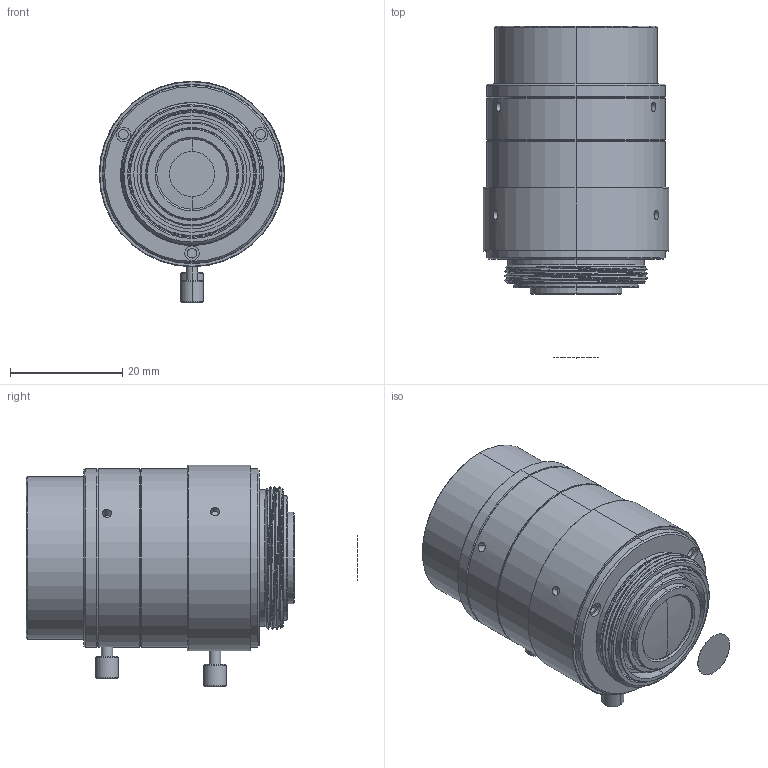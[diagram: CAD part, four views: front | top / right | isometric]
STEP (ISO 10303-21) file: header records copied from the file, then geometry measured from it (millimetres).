
FILE_DESCRIPTION((''),'2;1');
FILE_NAME('PHX-50-00_ASM','2020-06-05T',('sirtec'),(''),'CREO PARAMETRIC BY PTC INC, 2014190','CREO PARAMETRIC BY PTC INC, 2014190','');
FILE_SCHEMA(('CONFIG_CONTROL_DESIGN'));
Length unit declared in the file: millimetre
Products named in the file (16): PHX-50-201; PHX-50-101; PHX-50-301; PHX-16-308; PHX-50-202; PHX-50-403; PHX-16-203; PHX-50-109; PHX-50-401; PHX-50-102; PHX-50-G1; PHX-50-108; PHX-50-G7; PHX-16-501; PHX-50-XM; PHX-50-00_ASM
Assembly tree (16 placements, depth 2):
  PHX-50-00_ASM
    PHX-50-201
    PHX-50-101
    PHX-50-301
    PHX-16-308
    PHX-50-202
    PHX-50-403
    PHX-16-203
    PHX-50-109
    PHX-50-401
    PHX-50-102
    PHX-50-G1
    PHX-50-108
    PHX-50-G7
    PHX-16-501  x2
    PHX-50-XM
Bounding box: 33 x 59.02 x 39.4 mm (x, y, z)
Volume: 20790.6 mm3; surface area: 29888.6 mm2
Topology: 16 solids, 16 shells, 340 faces, 718 edges, 443 vertices
Faces by surface type: cylinder 174, plane 74, cone 72, bspline 12, sphere 8
Entity records: 11904 total; most frequent: CARTESIAN_POINT 4300, DIRECTION 1694, ORIENTED_EDGE 1372, AXIS2_PLACEMENT_3D 723, EDGE_CURVE 686, VERTEX_POINT 429, EDGE_LOOP 407, CIRCLE 376
